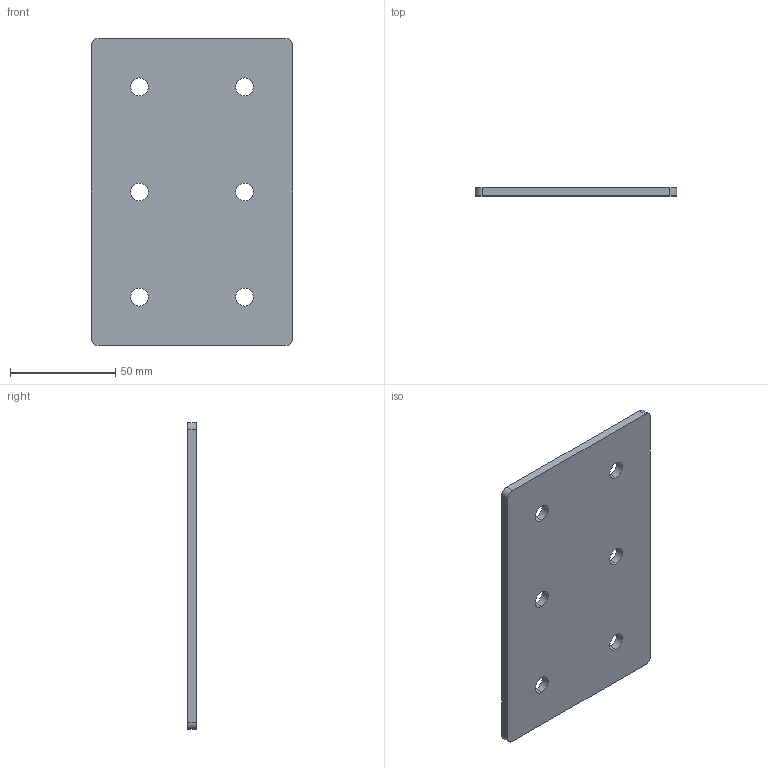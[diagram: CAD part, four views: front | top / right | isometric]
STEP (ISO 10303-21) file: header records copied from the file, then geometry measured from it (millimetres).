
FILE_DESCRIPTION (( 'STEP AP203' ), '1' );
FILE_NAME ('Ï-6-50.STEP', '2017-03-22T07:21:01', ( 'RosInstal-MKM' ), ( '' ), 'SwSTEP 2.0', 'SolidWorks 2014', '' );
FILE_SCHEMA (( 'CONFIG_CONTROL_DESIGN' ));
Length unit declared in the file: millimetre
Products named in the file (1): ﾏ-6-50
Bounding box: 96 x 4 x 146 mm (x, y, z)
Volume: 54663.2 mm3; surface area: 29885.4 mm2
Topology: 1 solids, 1 shells, 22 faces, 60 edges, 40 vertices
Faces by surface type: cylinder 16, plane 6
Entity records: 817 total; most frequent: DIRECTION 138, CARTESIAN_POINT 123, ORIENTED_EDGE 120, EDGE_CURVE 60, AXIS2_PLACEMENT_3D 55, VERTEX_POINT 40, EDGE_LOOP 34, CIRCLE 32
